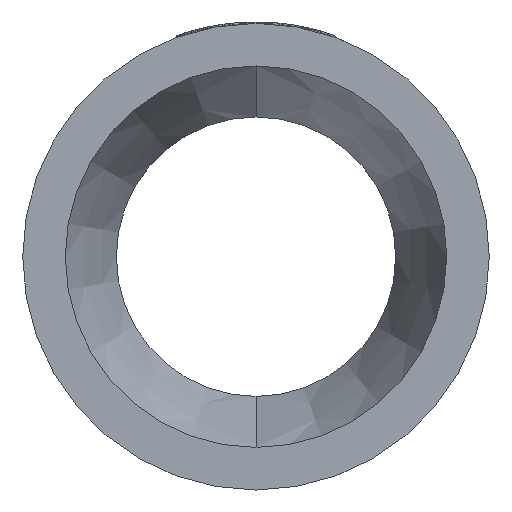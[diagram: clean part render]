
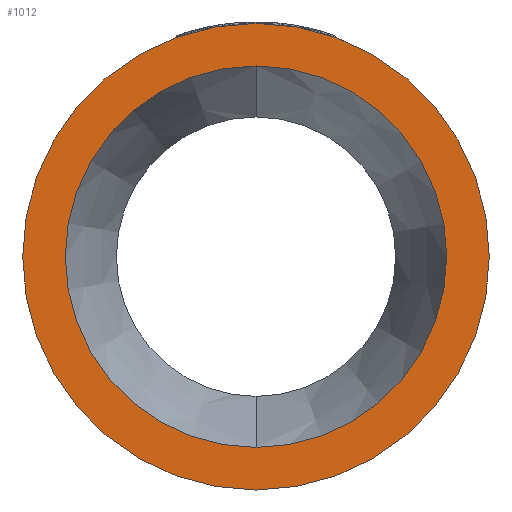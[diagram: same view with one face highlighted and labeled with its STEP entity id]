
A CAD part, left-side view. The second image highlights one B-rep face of the part: STEP entity #1012.
In plain terms, the highlighted planar face has unit normal (-1, 0, 0).
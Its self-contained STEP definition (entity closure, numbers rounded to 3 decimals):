
#21 = AXIS2_PLACEMENT_3D ( 'NONE', #2745, #2741, #2733 ) ;
#142 = EDGE_LOOP ( 'NONE', ( #1574, #1925 ) ) ;
#232 = AXIS2_PLACEMENT_3D ( 'NONE', #1337, #1331, #1318 ) ;
#298 = EDGE_LOOP ( 'NONE', ( #2866, #1313 ) ) ;
#552 = EDGE_CURVE ( 'NONE', #1049, #1571, #720, .T. ) ;
#575 = VERTEX_POINT ( 'NONE', #2548 ) ;
#638 = CARTESIAN_POINT ( 'NONE',  ( 0., 0., 65.4 ) ) ;
#720 = CIRCLE ( 'NONE', #21, 65.4 ) ;
#764 = EDGE_CURVE ( 'NONE', #1176, #575, #3300, .T. ) ;
#875 = CARTESIAN_POINT ( 'NONE',  ( 0., 0., -65.4 ) ) ;
#1012 = ADVANCED_FACE ( 'NONE', ( #3466, #2970 ), #1425, .F. ) ;
#1049 = VERTEX_POINT ( 'NONE', #638 ) ;
#1176 = VERTEX_POINT ( 'NONE', #2795 ) ;
#1313 = ORIENTED_EDGE ( 'NONE', *, *, #764, .T. ) ;
#1318 = DIRECTION ( 'NONE',  ( 0., 0., -1. ) ) ;
#1331 = DIRECTION ( 'NONE',  ( 1., 0., 0. ) ) ;
#1337 = CARTESIAN_POINT ( 'NONE',  ( 0., 65.4, 0. ) ) ;
#1346 = DIRECTION ( 'NONE',  ( -1., 0., 0. ) ) ;
#1386 = DIRECTION ( 'NONE',  ( 0., 0., 1. ) ) ;
#1425 = PLANE ( 'NONE',  #232 ) ;
#1489 = CARTESIAN_POINT ( 'NONE',  ( 0., 0., 0. ) ) ;
#1571 = VERTEX_POINT ( 'NONE', #875 ) ;
#1574 = ORIENTED_EDGE ( 'NONE', *, *, #552, .F. ) ;
#1838 = EDGE_CURVE ( 'NONE', #575, #1176, #3184, .T. ) ;
#1925 = ORIENTED_EDGE ( 'NONE', *, *, #2088, .F. ) ;
#1928 = CARTESIAN_POINT ( 'NONE',  ( 0., 0., 0. ) ) ;
#1943 = DIRECTION ( 'NONE',  ( -1., 0., 0. ) ) ;
#1978 = DIRECTION ( 'NONE',  ( 0., 0., 1. ) ) ;
#2081 = AXIS2_PLACEMENT_3D ( 'NONE', #1928, #1943, #1978 ) ;
#2088 = EDGE_CURVE ( 'NONE', #1571, #1049, #3272, .T. ) ;
#2097 = DIRECTION ( 'NONE',  ( 0., 0., 1. ) ) ;
#2108 = DIRECTION ( 'NONE',  ( -1., 0., 0. ) ) ;
#2112 = CARTESIAN_POINT ( 'NONE',  ( 0., 0., 0. ) ) ;
#2548 = CARTESIAN_POINT ( 'NONE',  ( 0., 0., 80. ) ) ;
#2733 = DIRECTION ( 'NONE',  ( 0., 0., 1. ) ) ;
#2741 = DIRECTION ( 'NONE',  ( -1., 0., 0. ) ) ;
#2745 = CARTESIAN_POINT ( 'NONE',  ( 0., 0., 0. ) ) ;
#2795 = CARTESIAN_POINT ( 'NONE',  ( 0., 0., -80. ) ) ;
#2866 = ORIENTED_EDGE ( 'NONE', *, *, #1838, .T. ) ;
#2970 = FACE_OUTER_BOUND ( 'NONE', #298, .T. ) ;
#3095 = AXIS2_PLACEMENT_3D ( 'NONE', #2112, #2108, #2097 ) ;
#3184 = CIRCLE ( 'NONE', #3334, 80. ) ;
#3272 = CIRCLE ( 'NONE', #3095, 65.4 ) ;
#3300 = CIRCLE ( 'NONE', #2081, 80. ) ;
#3334 = AXIS2_PLACEMENT_3D ( 'NONE', #1489, #1346, #1386 ) ;
#3466 = FACE_BOUND ( 'NONE', #142, .T. ) ;
